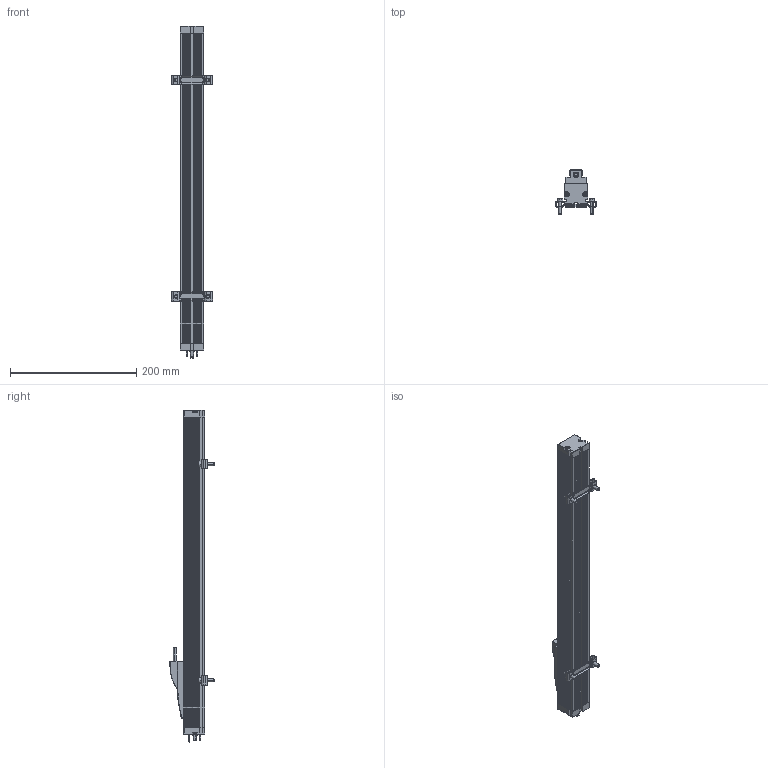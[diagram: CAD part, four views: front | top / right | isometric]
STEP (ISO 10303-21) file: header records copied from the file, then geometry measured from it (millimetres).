
FILE_DESCRIPTION (( 'STEP AP214' ), '1' );
FILE_NAME ('0360.STEP', '2008-11-27T14:37:48', ( 'novotechnik' ), ( 'novotechnik' ), 'SwSTEP 2.0', 'SolidWorks 2008', '' );
FILE_SCHEMA (( 'AUTOMOTIVE_DESIGN' ));
Length unit declared in the file: millimetre
Products named in the file (5): Housing_0360_Standard; Gleitschlitten_Standard; 0360; Klammer_Endseite_0360_Standard; Klammer_Anschlusseite_0360_Standard
Assembly tree (4 placements, depth 2):
  0360
    Gleitschlitten_Standard
    Klammer_Anschlusseite_0360_Standard
    Klammer_Endseite_0360_Standard
    Housing_0360_Standard
Bounding box: 65 x 70.2 x 526 mm (x, y, z)
Volume: 608422.4 mm3; surface area: 150605.2 mm2
Topology: 23 solids, 23 shells, 1179 faces, 3152 edges, 2027 vertices
Faces by surface type: plane 572, cylinder 421, bspline 94, cone 56, torus 22, sphere 14
Entity records: 54437 total; most frequent: CARTESIAN_POINT 12049, ORIENTED_EDGE 6256, DIRECTION 5810, EDGE_CURVE 3128, VERTEX_POINT 2027, AXIS2_PLACEMENT_3D 1953, VECTOR 1904, LINE 1904
